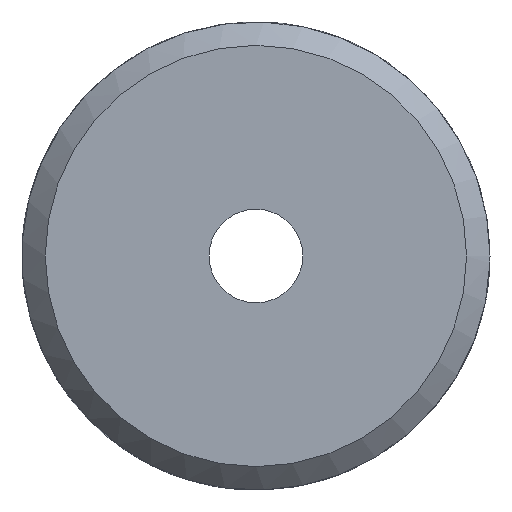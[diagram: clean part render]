
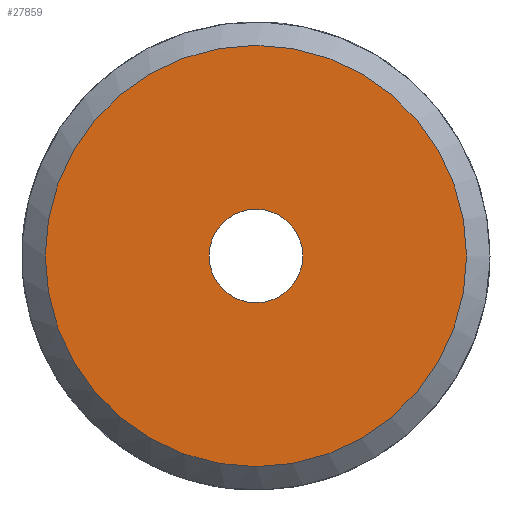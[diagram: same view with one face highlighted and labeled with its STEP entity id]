
A CAD part, left-side view. The second image highlights one B-rep face of the part: STEP entity #27859.
In plain terms, the highlighted planar face has unit normal (-1, 0, 0).
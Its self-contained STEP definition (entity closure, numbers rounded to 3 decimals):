
#7717=PLANE('',#27527);
#9940=ORIENTED_EDGE('',*,*,#10697,.F.);
#9941=ORIENTED_EDGE('',*,*,#11464,.F.);
#9943=CIRCLE('',#27116,4.5);
#10150=CIRCLE('',#27526,1.);
#10152=VERTEX_POINT('',#12768);
#10695=VERTEX_POINT('',#27109);
#10697=EDGE_CURVE('',#10152,#10152,#9943,.T.);
#11464=EDGE_CURVE('',#10695,#10695,#10150,.T.);
#11697=EDGE_LOOP('',(#9940));
#11698=EDGE_LOOP('',(#9941));
#11931=FACE_BOUND('',#11697,.T.);
#11932=FACE_BOUND('',#11698,.T.);
#11937=DIRECTION('',(1.,0.,0.));
#11938=DIRECTION('',(0.,-4.5,0.));
#12757=DIRECTION('',(-1.,0.,0.));
#12758=DIRECTION('',(0.,-1.,0.));
#12759=DIRECTION('',(-1.,0.,0.));
#12760=DIRECTION('',(0.,1.,0.));
#12768=CARTESIAN_POINT('',(47.035,138.89,0.));
#12769=CARTESIAN_POINT('',(47.035,143.39,0.));
#27109=CARTESIAN_POINT('',(47.035,142.39,0.));
#27110=CARTESIAN_POINT('',(47.035,143.39,0.));
#27111=CARTESIAN_POINT('',(47.035,138.89,0.));
#27116=AXIS2_PLACEMENT_3D('',#12769,#11937,#11938);
#27526=AXIS2_PLACEMENT_3D('',#27110,#12757,#12758);
#27527=AXIS2_PLACEMENT_3D('',#27111,#12759,#12760);
#27859=ADVANCED_FACE('',(#11931,#11932),#7717,.T.);
